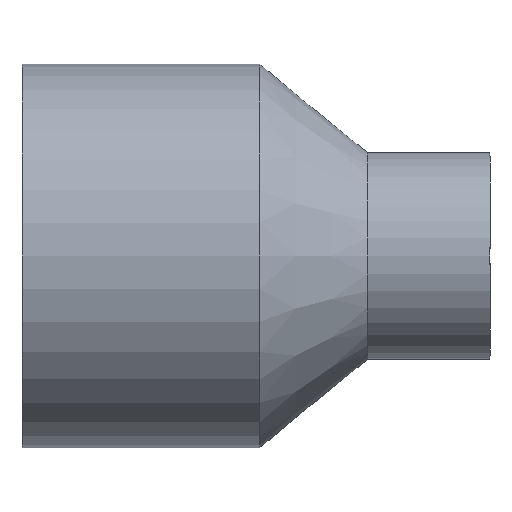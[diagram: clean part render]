
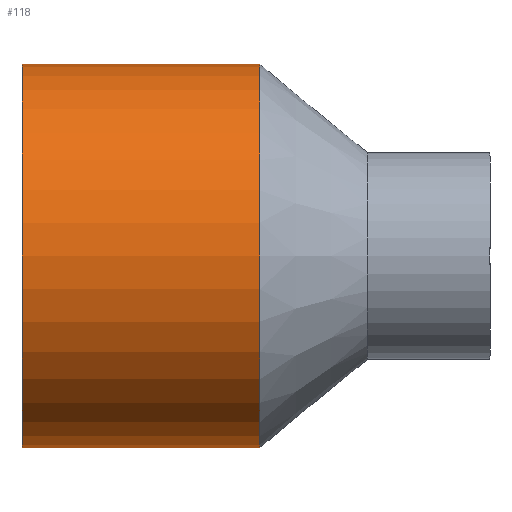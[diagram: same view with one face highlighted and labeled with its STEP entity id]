
A CAD part, front view. The second image highlights one B-rep face of the part: STEP entity #118.
In plain terms, the highlighted cylindrical face has radius 25 mm (diameter 50 mm), a full revolution.
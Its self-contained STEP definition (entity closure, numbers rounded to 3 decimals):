
#18=CYLINDRICAL_SURFACE('',#134,25.);
#25=FACE_BOUND('',#49,.T.);
#35=FACE_OUTER_BOUND('',#48,.T.);
#48=EDGE_LOOP('',(#98));
#49=EDGE_LOOP('',(#99));
#65=CIRCLE('',#133,25.);
#66=CIRCLE('',#135,25.);
#75=VERTEX_POINT('',#199);
#76=VERTEX_POINT('',#202);
#85=EDGE_CURVE('',#75,#75,#65,.T.);
#86=EDGE_CURVE('',#76,#76,#66,.T.);
#98=ORIENTED_EDGE('',*,*,#85,.T.);
#99=ORIENTED_EDGE('',*,*,#86,.F.);
#118=ADVANCED_FACE('',(#35,#25),#18,.T.);
#133=AXIS2_PLACEMENT_3D('',#200,#161,#162);
#134=AXIS2_PLACEMENT_3D('',#201,#163,#164);
#135=AXIS2_PLACEMENT_3D('',#203,#165,#166);
#161=DIRECTION('center_axis',(-1.,0.,0.));
#162=DIRECTION('ref_axis',(0.,0.,1.));
#163=DIRECTION('center_axis',(-1.,0.,0.));
#164=DIRECTION('ref_axis',(0.,-1.,0.));
#165=DIRECTION('center_axis',(-1.,0.,0.));
#166=DIRECTION('ref_axis',(0.,0.,1.));
#199=CARTESIAN_POINT('',(0.5,-25.,0.));
#200=CARTESIAN_POINT('Origin',(0.5,0.,0.));
#201=CARTESIAN_POINT('Origin',(-15.,0.,0.));
#202=CARTESIAN_POINT('',(-30.5,-25.,0.));
#203=CARTESIAN_POINT('Origin',(-30.5,0.,0.));
